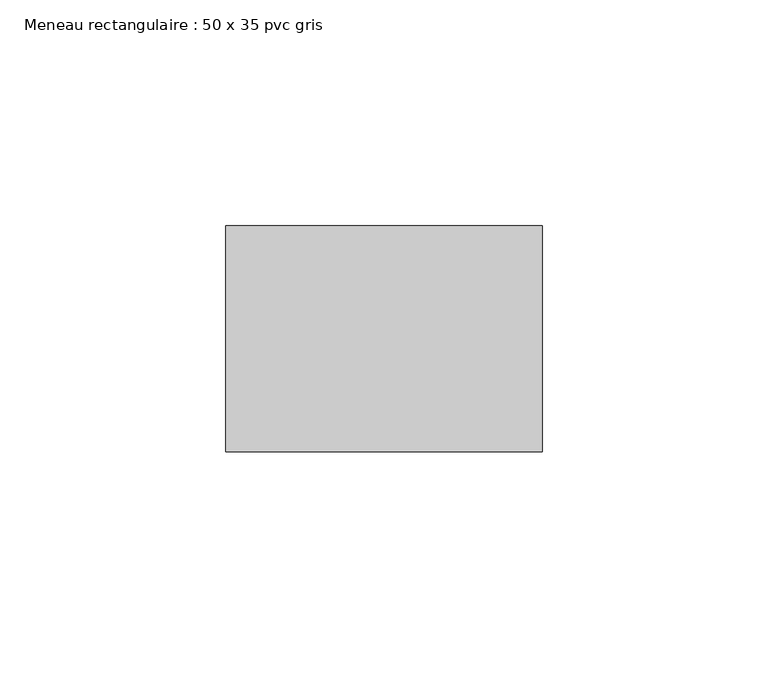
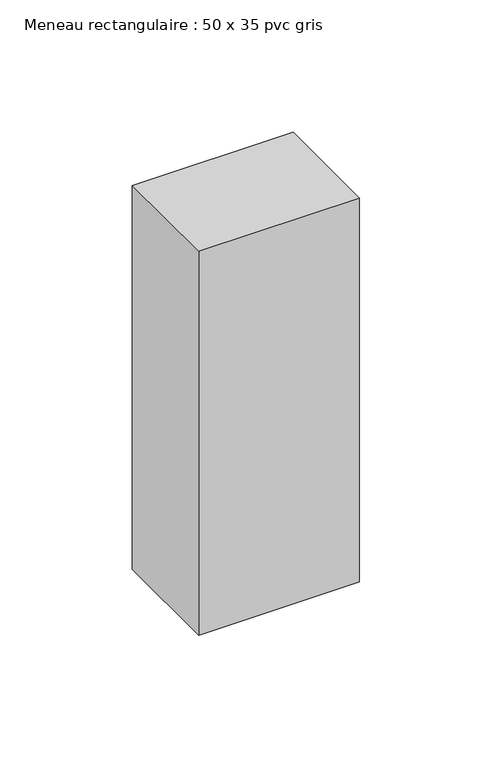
"""IFC4 building model written with IfcOpenShell, lengths in millimetres: member geometry, Meneau rectangulaire : 50 x 35 pvc gris."""

from ifc_helpers import new_model, si_unit, frame, origin, place, context, project, spatial, polyline, outline, extrude, source, transform, mapped, element, save


def meneau_rectangulaire_50_x_35_pvc_gris_2b6f5c74(model_context):
    return source(origin(), model_context, "Body", "SweptSolid", [
        extrude(outline(polyline([(35.0, 0.0), (35.0, -50.0), (-35.0, -50.0), (-35.0, 0.0), (35.0, 0.0)])), frame((0.0, 0.0, -177.0), z_axis=(0.0, 0.0, 1.0), x_axis=(1.0, 0.0, 0.0)), (0.0, 0.0, 1.0), 177.0),
    ])


if __name__ == "__main__":
    model = new_model("IFC4")
    model_context = context("Model", 3, world=origin())
    ifc_project = project(units=[si_unit("LENGTHUNIT", "METRE", prefix="MILLI")], contexts=[model_context])
    site = spatial("IfcSite", under=ifc_project)
    building = spatial("IfcBuilding", under=site)
    placement = place(None, origin())
    meneau_rectangulaire_50_x_35_pvc_gris_shape = meneau_rectangulaire_50_x_35_pvc_gris_2b6f5c74(model_context)
    element("IfcMember", 1, ObjectType="Meneau rectangulaire : 50 x 35 pvc gris", at=placement, inside=building, context=model_context, shape_type="MappedRepresentation", body=[
        mapped(meneau_rectangulaire_50_x_35_pvc_gris_shape, transform((0.0, 0.0, 0.0), x_axis=(1.0, 0.0, 0.0), y_axis=(0.0, 1.0, 0.0), z_axis=(0.0, 0.0, 1.0))),
    ])
    save(model, "model.ifc")
